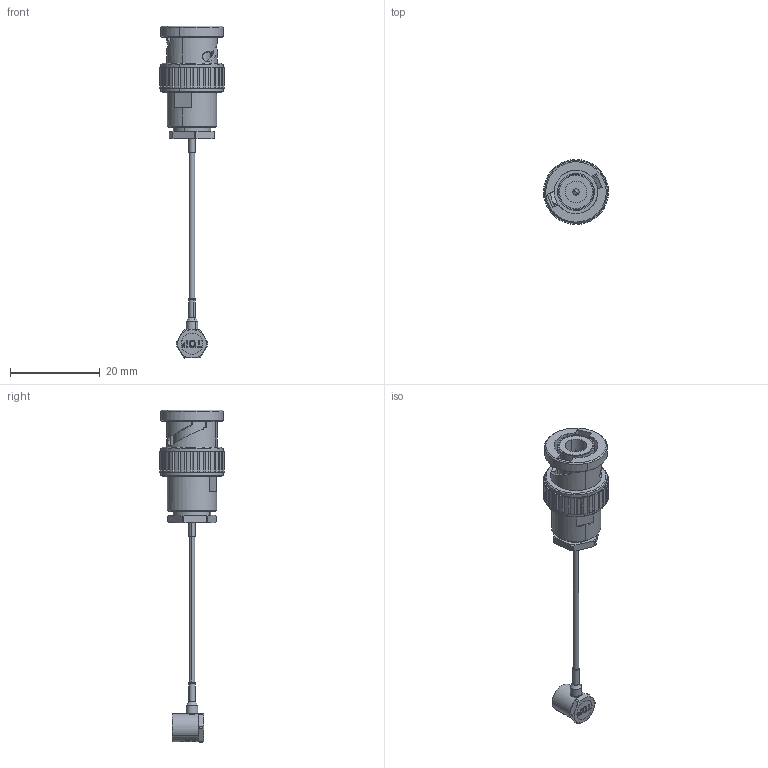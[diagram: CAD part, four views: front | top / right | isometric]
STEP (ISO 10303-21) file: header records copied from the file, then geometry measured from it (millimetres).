
FILE_DESCRIPTION (( 'STEP AP214' ), '1' );
FILE_NAME ('CAD_3032M9.STEP', '2018-03-30T21:05:20', ( 'Dytran' ), ( '' ), 'SwSTEP 2.0', 'SolidWorks 2016', '' );
FILE_SCHEMA (( 'AUTOMOTIVE_DESIGN' ));
Length unit declared in the file: inch
Products named in the file (1): CAD_3032M9
Bounding box: 14.47 x 14.47 x 73.94 mm (x, y, z)
Volume: 2779.8 mm3; surface area: 2625.5 mm2
Topology: 1 solids, 1 shells, 571 faces, 1539 edges, 1013 vertices
Faces by surface type: bspline 192, cylinder 179, plane 158, cone 42
Entity records: 32307 total; most frequent: CARTESIAN_POINT 12136, ORIENTED_EDGE 3070, DIRECTION 2075, EDGE_CURVE 1535, VERTEX_POINT 1013, AXIS2_PLACEMENT_3D 829, B_SPLINE_CURVE_WITH_KNOTS 638, EDGE_LOOP 622
